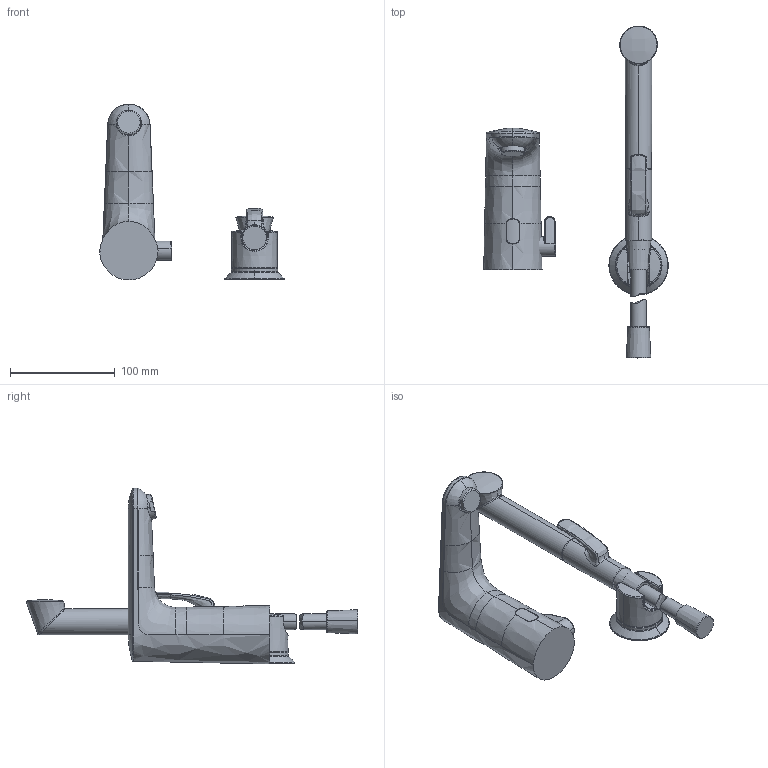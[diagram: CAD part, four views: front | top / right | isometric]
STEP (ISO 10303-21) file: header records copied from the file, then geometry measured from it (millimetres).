
FILE_DESCRIPTION (( 'STEP AP203' ), '1' );
FILE_NAME ('9262FQ(2023).STEP', '2023-10-23T07:05:43', ( '' ), ( '' ), 'SwSTEP 2.0', 'SolidWorks 2016', '' );
FILE_SCHEMA (( 'CONFIG_CONTROL_DESIGN' ));
Products named in the file (1): 9262FQ(2023)
Bounding box: 176.11 x 316.75 x 167.92 mm (x, y, z)
Volume: 606815.6 mm3; surface area: 86257 mm2
Topology: 10 solids, 10 shells, 245 faces, 595 edges, 373 vertices
Faces by surface type: bspline 154, plane 37, cylinder 27, torus 14, cone 13
Entity records: 47351 total; most frequent: CARTESIAN_POINT 42811, ORIENTED_EDGE 1186, EDGE_CURVE 593, DIRECTION 530, VERTEX_POINT 373, B_SPLINE_CURVE_WITH_KNOTS 359, EDGE_LOOP 250, ADVANCED_FACE 245
